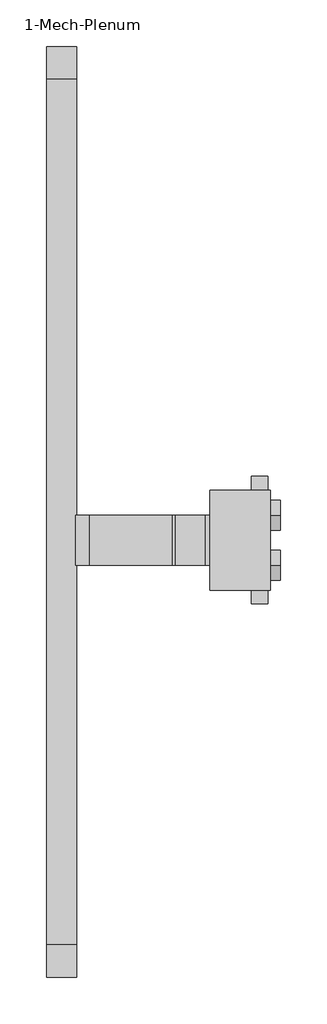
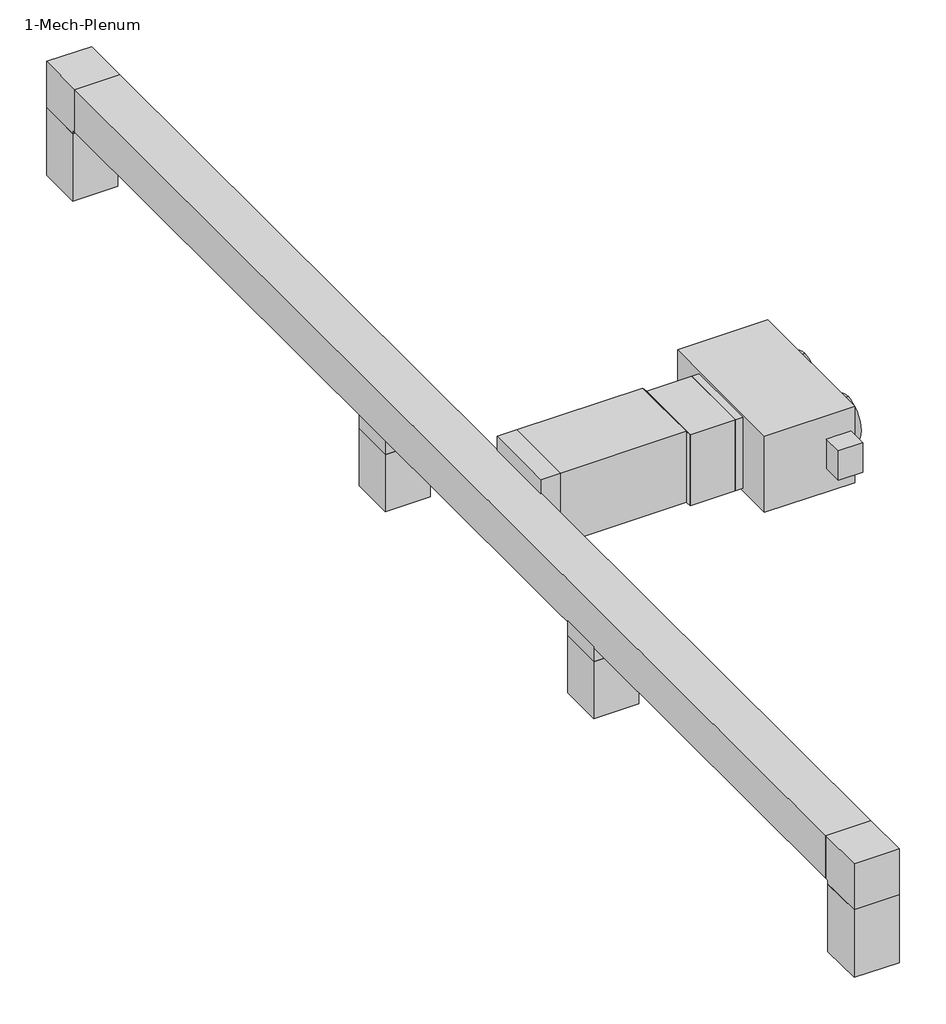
# One storey: 7 duct segments, 6 duct fittings, 1 proxy.
"""IFC4 building model written with IfcOpenShell, lengths in millimetres."""

from ifc_helpers import new_model, si_unit, frame, origin, place, context, project, spatial, polyline, outline, extrude, transform, mapped, element, save
from components import proxy_a372933c, rectangular_elbow_mitered_standard_4ff1c4e8, rectangular_takeoff_standard_087f681d, rectangular_takeoff_standard_8aed40d7, rectangular_transition_angle_45_degree_e8488e1d

model = new_model("IFC4")

# Units and contexts
model_context = context("Model", 3, world=origin())
ifc_project = project(units=[si_unit("LENGTHUNIT", "METRE", prefix="MILLI")], contexts=[model_context])

# Site, building, storey
site = spatial("IfcSite", under=ifc_project)
building = spatial("IfcBuilding", under=site)
storey = spatial("IfcBuildingStorey", under=building, Name="1-Mech-Plenum", Elevation=2514.6)

# Proxy
placement = place(None, origin())
proxy_shape = proxy_a372933c(model_context)
element("IfcBuildingElementProxy", 1, Name="VAV Unit - Dual Duct : 12'x12\"", ObjectType="VAV Unit - Dual Duct : 12'x12\"", at=placement, inside=storey, context=model_context, shape_type="MappedRepresentation", body=[
    mapped(proxy_shape, transform((-23188.568061, 5287.6463778, 2971.8), x_axis=(-1.0, 0.0, 0.0), y_axis=(0.0, -1.0, 0.0), z_axis=(0.0, 0.0, 1.0))),
])

# Duct fittings
rectangular_elbow_mitered_standard_shape = rectangular_elbow_mitered_standard_4ff1c4e8(model_context)
element("IfcDuctFitting", 2, ObjectType="Rectangular Elbow - Mitered : Standard", at=placement, inside=storey, context=model_context, shape_type="MappedRepresentation", body=[
    mapped(rectangular_elbow_mitered_standard_shape, transform((-25309.6859678, 1001.7709948, 3276.6), x_axis=(0.0, 0.0, 1.0), y_axis=(0.0, 1.0, 0.0), z_axis=(-1.0, 0.0, 0.0))),
])
element("IfcDuctFitting", 3, ObjectType="Rectangular Elbow - Mitered : Standard", at=placement, inside=storey, context=model_context, shape_type="MappedRepresentation", body=[
    mapped(rectangular_elbow_mitered_standard_shape, transform((-25309.6859678, 10145.7709948, 3276.6), x_axis=(0.0, 1.0, 0.0), y_axis=(0.0, 0.0, -1.0), z_axis=(-1.0, 0.0, 0.0))),
])
rectangular_takeoff_standard_shape = rectangular_takeoff_standard_087f681d(model_context)
element("IfcDuctFitting", 4, ObjectType="Rectangular Takeoff : Standard", at=placement, inside=storey, context=model_context, shape_type="MappedRepresentation", body=[
    mapped(rectangular_takeoff_standard_shape, transform((-25309.6859678, 6488.1709948, 3124.2), x_axis=(0.0, 0.0, -1.0), y_axis=(1.0, 0.0, 0.0), z_axis=(0.0, -1.0, 0.0))),
])
element("IfcDuctFitting", 5, ObjectType="Rectangular Takeoff : Standard", at=placement, inside=storey, context=model_context, shape_type="MappedRepresentation", body=[
    mapped(rectangular_takeoff_standard_shape, transform((-25309.6859678, 4049.7709948, 3124.2), x_axis=(0.0, 0.0, -1.0), y_axis=(1.0, 0.0, 0.0), z_axis=(0.0, -1.0, 0.0))),
])
rectangular_takeoff_standard_2_shape = rectangular_takeoff_standard_8aed40d7(model_context)
element("IfcDuctFitting", 6, ObjectType="Rectangular Takeoff : Standard", at=placement, inside=storey, context=model_context, shape_type="MappedRepresentation", body=[
    mapped(rectangular_takeoff_standard_2_shape, transform((-25157.2859678, 5287.6463778, 3276.6), x_axis=(1.0, 0.0, 0.0), y_axis=(0.0, -1.0, 0.0), z_axis=(0.0, 0.0, -1.0))),
])
rectangular_transition_angle_45_degree_shape = rectangular_transition_angle_45_degree_e8488e1d(model_context)
element("IfcDuctFitting", 7, ObjectType="Rectangular Transition - Angle : 45 Degree", at=placement, inside=storey, context=model_context, shape_type="MappedRepresentation", body=[
    mapped(rectangular_transition_angle_45_degree_shape, transform((-24153.7680508, 5287.6463778, 3244.85), x_axis=(-1.0, 0.0, 0.0), y_axis=(0.0, -1.0, 0.0), z_axis=(0.0, 0.0, 1.0))),
])

# Duct segments
element("IfcDuctSegment", 8, ObjectType="Mitered Elbows / Taps", at=placement, inside=storey, context=model_context, shape_type="SweptSolid", body=[
    extrude(outline(polyline([(-25157.2859678, 10298.1709948), (-25157.2859678, 9993.3709948), (-25462.0859678, 9993.3709948), (-25462.0859678, 10298.1709948), (-25157.2859678, 10298.1709948)])), frame((0.0, 0.0, 2616.4523776), z_axis=(0.0, 0.0, 1.0), x_axis=(1.0, 0.0, 0.0)), (0.0, 0.0, 1.0), 482.3476224),
])
element("IfcDuctSegment", 9, ObjectType="Mitered Elbows / Taps", at=placement, inside=storey, context=model_context, shape_type="SweptSolid", body=[
    extrude(outline(polyline([(-25157.2859678, 6640.5709948), (-25157.2859678, 6335.7709948), (-25462.0859678, 6335.7709948), (-25462.0859678, 6640.5709948), (-25157.2859678, 6640.5709948)])), frame((0.0, 0.0, 2616.4523776), z_axis=(0.0, 0.0, 1.0), x_axis=(1.0, 0.0, 0.0)), (0.0, 0.0, 1.0), 406.1476224),
])
element("IfcDuctSegment", 10, ObjectType="Mitered Elbows / Taps", at=placement, inside=storey, context=model_context, shape_type="SweptSolid", body=[
    extrude(outline(polyline([(-25157.2859678, 4202.1709948), (-25157.2859678, 3897.3709948), (-25462.0859678, 3897.3709948), (-25462.0859678, 4202.1709948), (-25157.2859678, 4202.1709948)])), frame((0.0, 0.0, 2616.4523776), z_axis=(0.0, 0.0, 1.0), x_axis=(1.0, 0.0, 0.0)), (0.0, 0.0, 1.0), 406.1476224),
])
element("IfcDuctSegment", 11, ObjectType="Mitered Elbows / Taps", at=placement, inside=storey, context=model_context, shape_type="SweptSolid", body=[
    extrude(outline(polyline([(-25157.2859678, 1179.5709948), (-25462.0859678, 1179.5709948), (-25462.0859678, 9967.9709948), (-25157.2859678, 9967.9709948), (-25157.2859678, 1179.5709948)])), frame((0.0, 0.0, 3124.2), z_axis=(0.0, 0.0, 1.0), x_axis=(1.0, 0.0, 0.0)), (0.0, 0.0, 1.0), 304.8),
])
element("IfcDuctSegment", 12, ObjectType="Mitered Elbows / Taps", at=placement, inside=storey, context=model_context, shape_type="SweptSolid", body=[
    extrude(outline(polyline([(-25462.0859678, 1154.1709948), (-25157.2859678, 1154.1709948), (-25157.2859678, 849.3709948), (-25462.0859678, 849.3709948), (-25462.0859678, 1154.1709948)])), frame((0.0, 0.0, 2616.4523776), z_axis=(0.0, 0.0, 1.0), x_axis=(1.0, 0.0, 0.0)), (0.0, 0.0, 1.0), 482.3476224),
])
element("IfcDuctSegment", 13, ObjectType="Mitered Elbows / Taps", at=placement, inside=storey, context=model_context, shape_type="SweptSolid", body=[
    extrude(outline(polyline([(-23848.968061, 5541.6463778), (-23848.968061, 5033.6463778), (-24153.7680508, 5033.6463778), (-24153.7680508, 5541.6463778), (-23848.968061, 5541.6463778)])), frame((0.0, 0.0, 2990.85), z_axis=(0.0, 0.0, 1.0), x_axis=(1.0, 0.0, 0.0)), (0.0, 0.0, 1.0), 508.0),
])
element("IfcDuctSegment", 14, ObjectType="Mitered Elbows / Taps", at=placement, inside=storey, context=model_context, shape_type="SweptSolid", body=[
    extrude(outline(polyline([(-25030.2859678, 5033.6463778), (-25030.2859678, 5541.6463778), (-24179.1680508, 5541.6463778), (-24179.1680508, 5033.6463778), (-25030.2859678, 5033.6463778)])), frame((0.0, 0.0, 3022.6), z_axis=(0.0, 0.0, 1.0), x_axis=(1.0, 0.0, 0.0)), (0.0, 0.0, 1.0), 508.0),
])

save(model, "model.ifc")
